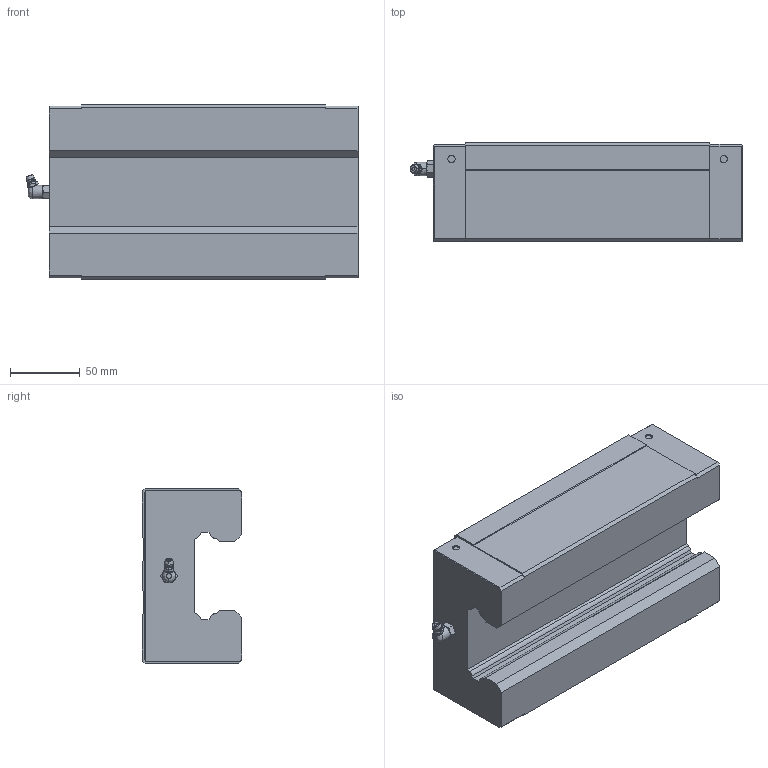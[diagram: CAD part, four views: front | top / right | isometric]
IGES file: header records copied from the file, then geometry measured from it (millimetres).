
Start section: SolidWorks IGES file using analytic representation for surfaces
Global section: file name: C:\Users\EOS\Desktop\output_#task\SHS65V.igs; native system: SolidWorks 2017; preprocessor: SolidWorks 2017; author: EOS; date: 170918.091453; units: millimetre
Bounding box: 237.7 x 71 x 126 mm (x, y, z)
Surface area: 122362.8 mm2 (no closed solid volume)
Topology: 0 solids, 0 shells, 154 faces, 1826 edges, 1811 vertices
Faces by surface type: bspline 92, revolution 62
